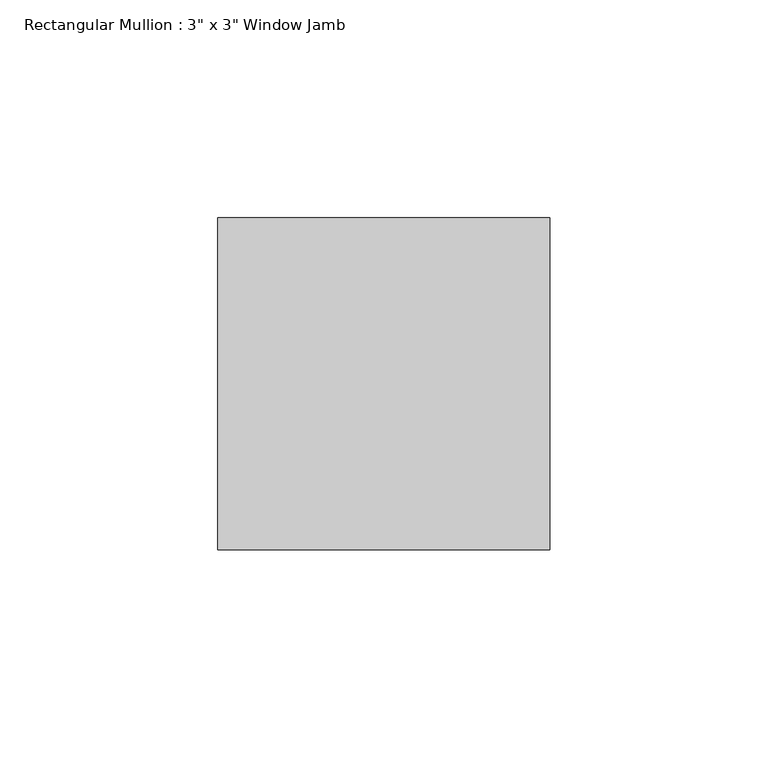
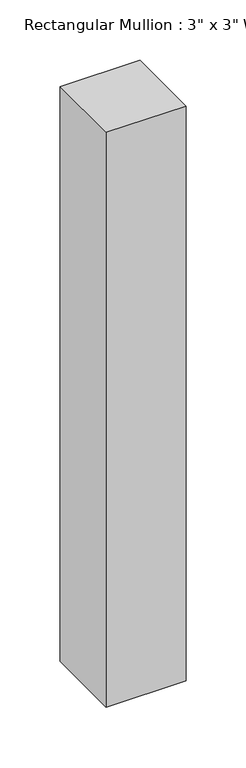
"""IFC4 building model written with IfcOpenShell, lengths in millimetres: member geometry."""

import ifcopenshell
import ifcopenshell.guid

model = None  # the IFC model being written
_history = None  # IfcOwnerHistory: only IFC2X3 demands one
_inside = {}  # id of a spatial element -> (the spatial element, [elements in it])
_under = {}  # id of a project, library or spatial element -> (it, [spatial elements below it])
_declared = {}  # id of a project -> (the project, [libraries it declares])
_typed = {}  # id of a type object -> (the type object, [elements of that type])
_made_of = {}  # id of a material, layer set ... -> (it, [elements and type objects made of it])


def new_model(schema):
    """Start an empty IFC model of exactly this schema.

    Asked for "IFC4X3", IfcOpenShell would pick the latest addendum, in which some entities
    have other attributes; the version numbers below select the first issue.
    IFC2X3 requires an IfcOwnerHistory on every rooted entity: one is made here for all.
    """
    global model, _history
    if schema == "IFC4X3":
        model = ifcopenshell.file(schema_version=(4, 3, 0, 0))
    else:
        model = ifcopenshell.file(schema=schema)
    _inside.clear()
    _under.clear()
    _declared.clear()
    _typed.clear()
    _made_of.clear()
    _history = None
    if model.schema == "IFC2X3":
        org = make("IfcOrganization", Name="unknown")
        user = make(
            "IfcPersonAndOrganization",
            ThePerson=make("IfcPerson", FamilyName="unknown"),
            TheOrganization=org,
        )
        app = make(
            "IfcApplication",
            ApplicationDeveloper=org,
            Version="unknown",
            ApplicationFullName="unknown",
            ApplicationIdentifier="unknown",
        )
        _history = make(
            "IfcOwnerHistory",
            OwningUser=user,
            OwningApplication=app,
            ChangeAction="ADDED",
            CreationDate=0,
        )
    return model


def make(cls, **values):
    """One entity of the class cls with the attributes given. An attribute that is None is left unset."""
    return model.create_entity(
        cls, **{name: value for name, value in values.items() if value is not None}
    )


def rooted(cls, **values):
    """An entity with a GlobalId (a new one), such as an element, a storey or a relation."""
    return make(cls, GlobalId=ifcopenshell.guid.new(), OwnerHistory=_history, **values)


def si_unit(unit_type, name, prefix=None):
    """IfcSIUnit, for example si_unit("LENGTHUNIT", "METRE", prefix="MILLI")."""
    return make("IfcSIUnit", UnitType=unit_type, Prefix=prefix, Name=name)


def assignment(units):
    """IfcUnitAssignment: the units of a project."""
    return None if units is None else make("IfcUnitAssignment", Units=units)


def point(xyz):
    """IfcCartesianPoint."""
    return None if xyz is None else make("IfcCartesianPoint", Coordinates=xyz)


def direction(xyz):
    """IfcDirection."""
    return None if xyz is None else make("IfcDirection", DirectionRatios=xyz)


def frame(location, z_axis=None, x_axis=None):
    """IfcAxis2Placement3D, a coordinate frame: its origin and axes. An axis left out is left unset."""
    return make(
        "IfcAxis2Placement3D",
        Location=point(location),
        Axis=direction(z_axis),
        RefDirection=direction(x_axis),
    )


def origin():
    """The frame at (0, 0, 0) with its axes left unset."""
    return frame((0.0, 0.0, 0.0))


def place(relative_to, where):
    """IfcLocalPlacement: puts the frame where relative to a parent placement (None: the world)."""
    return make(
        "IfcLocalPlacement", PlacementRelTo=relative_to, RelativePlacement=where
    )


def context(
    kind, dimensions, precision=None, world=None, true_north=None, identifier=None
):
    """IfcGeometricRepresentationContext, for example the 3D "Model" context."""
    return make(
        "IfcGeometricRepresentationContext",
        ContextIdentifier=identifier,
        ContextType=kind,
        CoordinateSpaceDimension=dimensions,
        Precision=precision,
        WorldCoordinateSystem=world,
        TrueNorth=true_north,
    )


def project(units=None, contexts=None):
    """IfcProject with its units and contexts."""
    return rooted(
        "IfcProject",
        Name="project",
        RepresentationContexts=contexts,
        UnitsInContext=assignment(units),
    )


def spatial(cls, under=None, at=None, **own):
    """A site, building, storey or space (cls), placed at a placement, below another one or the project."""
    s = rooted(cls, ObjectPlacement=at, **own)
    if under is not None:
        _under.setdefault(under.id(), (under, []))[1].append(s)
    return s


def polyline(points):
    """IfcPolyline through the points."""
    return make("IfcPolyline", Points=[point(p) for p in points])


def outline(outer, holes=None, kind="AREA"):
    """IfcArbitraryClosedProfileDef: a profile drawn as a closed curve; with holes, ...WithVoids."""
    if holes is None:
        return make("IfcArbitraryClosedProfileDef", ProfileType=kind, OuterCurve=outer)
    return make(
        "IfcArbitraryProfileDefWithVoids",
        ProfileType=kind,
        OuterCurve=outer,
        InnerCurves=holes,
    )


def extrude(swept, where, along, depth):
    """IfcExtrudedAreaSolid: the profile swept, set in the frame where, extruded along a direction by depth."""
    return make(
        "IfcExtrudedAreaSolid",
        SweptArea=swept,
        Position=where,
        ExtrudedDirection=direction(along),
        Depth=depth,
    )


def shape(context_of_items, identifier, shape_type, items):
    """IfcShapeRepresentation: the items that make up one representation, for example the "Body"."""
    return make(
        "IfcShapeRepresentation",
        ContextOfItems=context_of_items,
        RepresentationIdentifier=identifier,
        RepresentationType=shape_type,
        Items=items,
    )


def source(mapping_origin, context_of_items, identifier, shape_type, items):
    """IfcRepresentationMap: a shape defined once, which mapped items show again and again."""
    return make(
        "IfcRepresentationMap",
        MappingOrigin=mapping_origin,
        MappedRepresentation=shape(context_of_items, identifier, shape_type, items),
    )


def transform(
    local_origin,
    x_axis=None,
    y_axis=None,
    z_axis=None,
    scale=None,
    scale2=None,
    scale3=None,
    uniform=True,
):
    """IfcCartesianTransformationOperator3D, or its non-uniform kind. x_axis, y_axis, z_axis: its Axis1, 2, 3."""
    if uniform:
        return make(
            "IfcCartesianTransformationOperator3D",
            Axis1=direction(x_axis),
            Axis2=direction(y_axis),
            LocalOrigin=point(local_origin),
            Scale=scale,
            Axis3=direction(z_axis),
        )
    return make(
        "IfcCartesianTransformationOperator3DnonUniform",
        Axis1=direction(x_axis),
        Axis2=direction(y_axis),
        LocalOrigin=point(local_origin),
        Scale=scale,
        Axis3=direction(z_axis),
        Scale2=scale2,
        Scale3=scale3,
    )


def mapped(mapping_source, mapping_target):
    """IfcMappedItem: shows the shape of a source again, moved by a transform."""
    return make(
        "IfcMappedItem", MappingSource=mapping_source, MappingTarget=mapping_target
    )


def made_of(thing, what):
    """Note that an element or type object is made of a material, layer set ...; save() writes the relation."""
    if what is not None:
        _made_of.setdefault(what.id(), (what, []))[1].append(thing)
    return thing


def element(
    cls,
    number,
    at=None,
    inside=None,
    cuts=None,
    type_object=None,
    material=None,
    context=None,
    identifier="Body",
    shape_type=None,
    held_by="IfcProductDefinitionShape",
    body=None,
    shapes=None,
    **own,
):
    """One element of the class cls, such as IfcWall. Its Tag is "e" and its number.

    at: its placement. inside: the storey or other place that contains it. cuts: it is an
    opening in that element (IfcRelVoidsElement). A single representation is given by context,
    identifier, shape_type and body (its items); several are given by shapes. held_by: the class
    of the entity that holds the representations. save() writes the other relations.
    """
    e = rooted(cls, Tag="e%d" % number, ObjectPlacement=at, **own)
    if body is not None:
        shapes = [shape(context, identifier, shape_type, body)]
    if shapes is not None:
        e.Representation = make(held_by, Representations=shapes)
    if inside is not None:
        _inside.setdefault(inside.id(), (inside, []))[1].append(e)
    if cuts is not None:
        rooted(
            "IfcRelVoidsElement", RelatingBuildingElement=cuts, RelatedOpeningElement=e
        )
    if type_object is not None:
        _typed.setdefault(type_object.id(), (type_object, []))[1].append(e)
    return made_of(e, material)


def aggregate(whole, parts):
    """IfcRelAggregates: a whole, such as a stair, and the parts it consists of."""
    return rooted("IfcRelAggregates", RelatingObject=whole, RelatedObjects=parts)


def save(model, path):
    """Write the relations noted so far, then the file.

    IfcRelAggregates (storeys below a building ...), IfcRelContainedInSpatialStructure (elements
    in a storey), IfcRelDefinesByType, IfcRelAssociatesMaterial and IfcRelDeclares: one each for
    every whole, place, type object, material and project.
    """
    for whole, parts in _under.values():
        aggregate(whole, parts)
    for where, things in _inside.values():
        rooted(
            "IfcRelContainedInSpatialStructure",
            RelatedElements=things,
            RelatingStructure=where,
        )
    for kind, things in _typed.values():
        rooted("IfcRelDefinesByType", RelatedObjects=things, RelatingType=kind)
    for what, things in _made_of.values():
        rooted("IfcRelAssociatesMaterial", RelatedObjects=things, RelatingMaterial=what)
    for by, libraries in _declared.values():
        rooted("IfcRelDeclares", RelatingContext=by, RelatedDefinitions=libraries)
    model.write(path)


def member_e5d968b1(model_context):
    return source(origin(), model_context, "Body", "SweptSolid", [
        extrude(outline(polyline([(0.0, 50.8), (0.0, -25.4), (-76.2, -25.4), (-76.2, 50.8), (0.0, 50.8)])), frame((0.0, 0.0, -581.66), z_axis=(0.0, 0.0, 1.0), x_axis=(1.0, 0.0, 0.0)), (0.0, 0.0, 1.0), 581.66),
    ])


if __name__ == "__main__":
    model = new_model("IFC4")
    model_context = context("Model", 3, world=origin())
    ifc_project = project(units=[si_unit("LENGTHUNIT", "METRE", prefix="MILLI")], contexts=[model_context])
    site = spatial("IfcSite", under=ifc_project)
    building = spatial("IfcBuilding", under=site)
    placement = place(None, origin())
    member_shape = member_e5d968b1(model_context)
    element("IfcMember", 1, ObjectType="Rectangular Mullion : 3\" x 3\" Window Jamb", at=placement, inside=building, context=model_context, shape_type="MappedRepresentation", body=[
        mapped(member_shape, transform((0.0, 0.0, 0.0), x_axis=(1.0, 0.0, 0.0), y_axis=(0.0, 1.0, 0.0), z_axis=(0.0, 0.0, 1.0))),
    ])
    save(model, "model.ifc")
